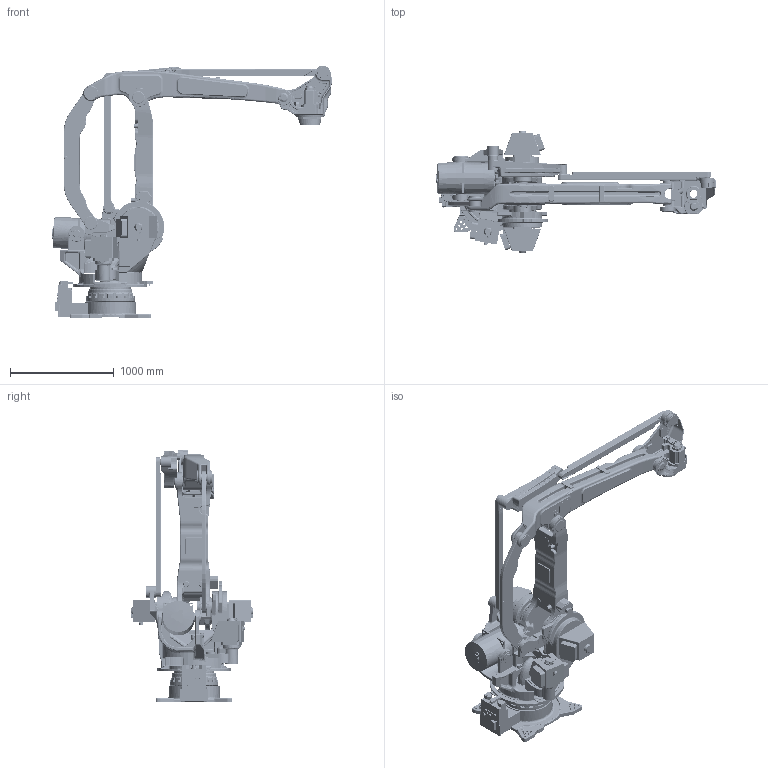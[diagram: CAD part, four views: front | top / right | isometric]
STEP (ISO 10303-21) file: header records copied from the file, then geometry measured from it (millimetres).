
FILE_DESCRIPTION(/* description */ ('Unknown'),/* implementation_level */ '2;1');
FILE_NAME(/* name */ 'assy_view_04lxh190-100-a00',/* time_stamp */ '2021-12-01T10:17:42-05:00',/* author */ ('Unknown'),/* organization */ ('Unknown'),/* preprocessor_version */ 'ST-DEVELOPER v18.1',/* originating_system */ 'Solid Edge',/* authorisation */ 'Unknown');
FILE_SCHEMA (('AUTOMOTIVE_DESIGN {1 0 10303 214 3 1 1}'));
Products named in the file (14): assy_view_04lxh190-100-a00; BASE_VIEW_04LXH190-B00; S_VIEW_04LXH190-100-A00; L_VIEW_04LXH190-B00; BALANCER1_VIEW_04LXH190-B00; BALANCER2_VIEW_04LXH190-B00; LINKB_VIEW_04LXH190-B00; LINKA_VIEW_04LXH190-B00; U_VIEW_04LXH190-B00; LINKC_VIEW_04LXH190-B00; LINKD_VIEW_04LXH190-B00; LINKE_VIEW_04LXH190-B00; WRIST_VIEW_04LXH190-B00; T_VIEW_04LXH190-B00
Assembly tree (13 placements, depth 2):
  assy_view_04lxh190-100-a00
    BASE_VIEW_04LXH190-B00
    S_VIEW_04LXH190-100-A00
    L_VIEW_04LXH190-B00
    BALANCER1_VIEW_04LXH190-B00
    BALANCER2_VIEW_04LXH190-B00
    LINKB_VIEW_04LXH190-B00
    LINKA_VIEW_04LXH190-B00
    U_VIEW_04LXH190-B00
    LINKC_VIEW_04LXH190-B00
    LINKD_VIEW_04LXH190-B00
    LINKE_VIEW_04LXH190-B00
    WRIST_VIEW_04LXH190-B00
    T_VIEW_04LXH190-B00
Bounding box: 2699.41 x 1179.82 x 2437.03 mm (x, y, z)
Volume: 235453830.3 mm3; surface area: 17538318.2 mm2
Topology: 14 solids, 93 shells, 6971 faces, 18058 edges, 10838 vertices
Faces by surface type: cylinder 2371, plane 1693, bspline 1198, torus 1192, cone 305, sphere 212
Full cylindrical faces by diameter (mm): 5.994 x1, 6.647 x4, 8.376 x12, 10 x4, 10.106 x9, 10.95 x5, 13 x2, 13.8 x4, 14 x7, 15.6 x5, 15.999 x2, 17.293 x12, 19.999 x2, 20 x6, 21.999 x8, 22 x2, 25 x2, 28.6 x1, 29.97 x1, 30 x2, 34.465 x2, 34.5 x1, 35 x12, 35.923 x1, 35.959 x1, 38 x1, 38.9 x1, 39.96 x1, 40 x2, 41.958 x1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
Entity records: 317338 total; most frequent: CARTESIAN_POINT 159836, ORIENTED_EDGE 33206, DIRECTION 25448, EDGE_CURVE 17076, VERTEX_POINT 10603, AXIS2_PLACEMENT_3D 10076, FACE_BOUND 7512, EDGE_LOOP 7498
